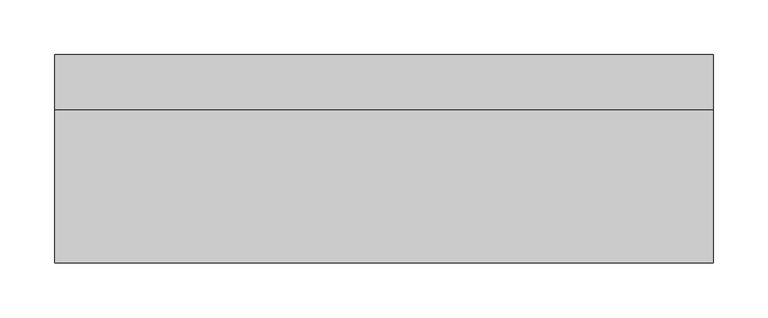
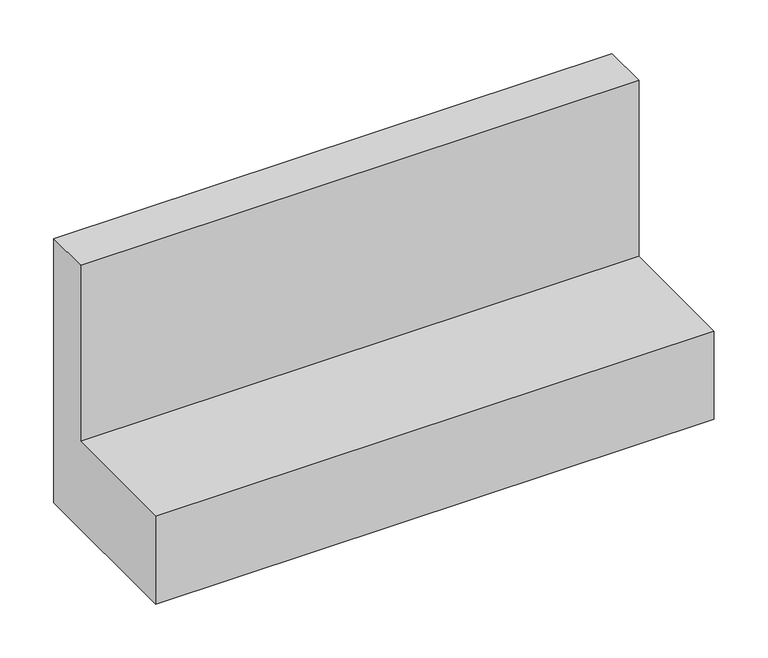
"""IFC4 building model written with IfcOpenShell, lengths in millimetres: proxy geometry, Módulo L de Concreto Celular - Celucon : MLCC 19x30x60cm (L x A x C)."""

from ifc_helpers import new_model, si_unit, frame, origin, place, context, project, spatial, polyline, outline, extrude, source, transform, mapped, element, save


def generic_models_ec5b52a0(model_context):
    return source(origin(), model_context, "Body", "SweptSolid", [
        extrude(outline(polyline([(95.0, 0.0), (-95.0, 0.0), (-95.0, 100.0), (45.0, 100.0), (45.0, 300.0), (95.0, 300.0), (95.0, 0.0)])), frame((-300.0, 0.0, 0.0), z_axis=(1.0, 0.0, 0.0), x_axis=(0.0, 1.0, 0.0)), (0.0, 0.0, 1.0), 600.0),
    ])


if __name__ == "__main__":
    model = new_model("IFC4")
    model_context = context("Model", 3, world=origin())
    ifc_project = project(units=[si_unit("LENGTHUNIT", "METRE", prefix="MILLI")], contexts=[model_context])
    site = spatial("IfcSite", under=ifc_project)
    building = spatial("IfcBuilding", under=site)
    placement = place(None, origin())
    generic_models_shape = generic_models_ec5b52a0(model_context)
    element("IfcBuildingElementProxy", 1, Name="Módulo L de Concreto Celular - Celucon : MLCC 19x30x60cm (L x A x C)", ObjectType="Módulo L de Concreto Celular - Celucon : MLCC 19x30x60cm (L x A x C)", at=placement, inside=building, context=model_context, shape_type="MappedRepresentation", body=[
        mapped(generic_models_shape, transform((0.0, 0.0, 0.0), x_axis=(1.0, 0.0, 0.0), y_axis=(0.0, 1.0, 0.0), z_axis=(0.0, 0.0, 1.0))),
    ])
    save(model, "model.ifc")
